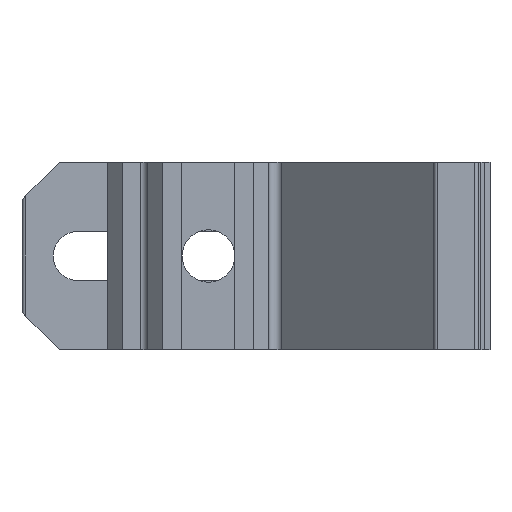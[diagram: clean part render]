
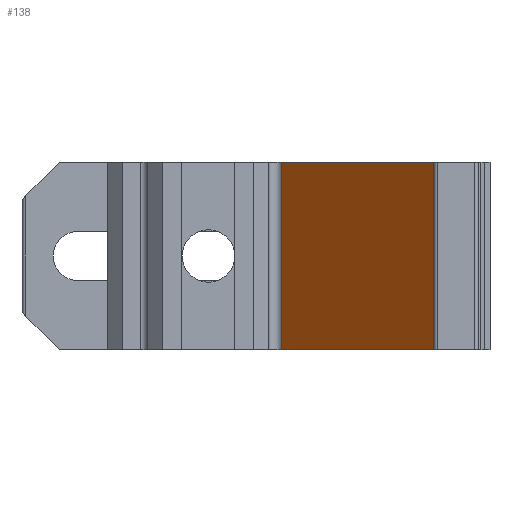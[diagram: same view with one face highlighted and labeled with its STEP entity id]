
A CAD part, front view. The second image highlights one B-rep face of the part: STEP entity #138.
In plain terms, the highlighted planar face has unit normal (-0.707, -0.707, 0).
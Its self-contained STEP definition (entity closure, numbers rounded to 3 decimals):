
#82 = FACE_OUTER_BOUND ( 'NONE', #2372, .T. ) ;
#94 = DIRECTION ( 'NONE',  ( 0., 0., -1. ) ) ;
#121 = EDGE_CURVE ( 'NONE', #1489, #632, #239, .T. ) ;
#138 = ADVANCED_FACE ( 'NONE', ( #82 ), #1670, .F. ) ;
#239 = LINE ( 'NONE', #698, #629 ) ;
#250 = ORIENTED_EDGE ( 'NONE', *, *, #857, .F. ) ;
#360 = ORIENTED_EDGE ( 'NONE', *, *, #2363, .F. ) ;
#477 = CARTESIAN_POINT ( 'NONE',  ( 51.495, 70.512, 25. ) ) ;
#495 = EDGE_CURVE ( 'NONE', #632, #2261, #741, .T. ) ;
#504 = DIRECTION ( 'NONE',  ( 0.707, -0.707, 0. ) ) ;
#522 = CARTESIAN_POINT ( 'NONE',  ( 71.788, 50.219, 25. ) ) ;
#535 = LINE ( 'NONE', #522, #2362 ) ;
#625 = VECTOR ( 'NONE', #2049, 1000. ) ;
#629 = VECTOR ( 'NONE', #1436, 1000. ) ;
#632 = VERTEX_POINT ( 'NONE', #3039 ) ;
#698 = CARTESIAN_POINT ( 'NONE',  ( 51.495, 70.512, 25. ) ) ;
#741 = LINE ( 'NONE', #1815, #625 ) ;
#781 = ORIENTED_EDGE ( 'NONE', *, *, #121, .T. ) ;
#820 = VERTEX_POINT ( 'NONE', #2373 ) ;
#857 = EDGE_CURVE ( 'NONE', #1489, #820, #535, .T. ) ;
#1046 = CARTESIAN_POINT ( 'NONE',  ( 71.788, 50.219, 0. ) ) ;
#1099 = CARTESIAN_POINT ( 'NONE',  ( 71.788, 50.219, 25. ) ) ;
#1436 = DIRECTION ( 'NONE',  ( 0., 0., -1. ) ) ;
#1489 = VERTEX_POINT ( 'NONE', #477 ) ;
#1670 = PLANE ( 'NONE',  #2288 ) ;
#1723 = ORIENTED_EDGE ( 'NONE', *, *, #495, .T. ) ;
#1815 = CARTESIAN_POINT ( 'NONE',  ( 71.788, 50.219, 0. ) ) ;
#2049 = DIRECTION ( 'NONE',  ( 0.707, -0.707, 0. ) ) ;
#2140 = VECTOR ( 'NONE', #94, 1000. ) ;
#2261 = VERTEX_POINT ( 'NONE', #1046 ) ;
#2288 = AXIS2_PLACEMENT_3D ( 'NONE', #2379, #2367, #3044 ) ;
#2362 = VECTOR ( 'NONE', #504, 1000. ) ;
#2363 = EDGE_CURVE ( 'NONE', #820, #2261, #2766, .T. ) ;
#2367 = DIRECTION ( 'NONE',  ( 0.707, 0.707, 0. ) ) ;
#2372 = EDGE_LOOP ( 'NONE', ( #1723, #360, #250, #781 ) ) ;
#2373 = CARTESIAN_POINT ( 'NONE',  ( 71.788, 50.219, 25. ) ) ;
#2379 = CARTESIAN_POINT ( 'NONE',  ( 71.788, 50.219, 25. ) ) ;
#2766 = LINE ( 'NONE', #1099, #2140 ) ;
#3039 = CARTESIAN_POINT ( 'NONE',  ( 51.495, 70.512, 0. ) ) ;
#3044 = DIRECTION ( 'NONE',  ( -0.707, 0.707, 0. ) ) ;
